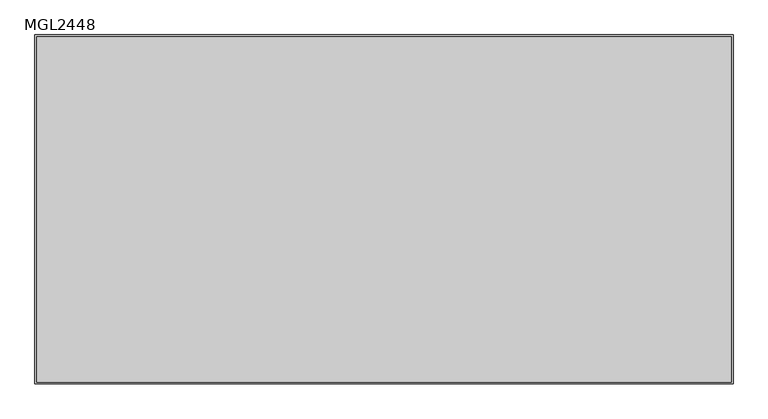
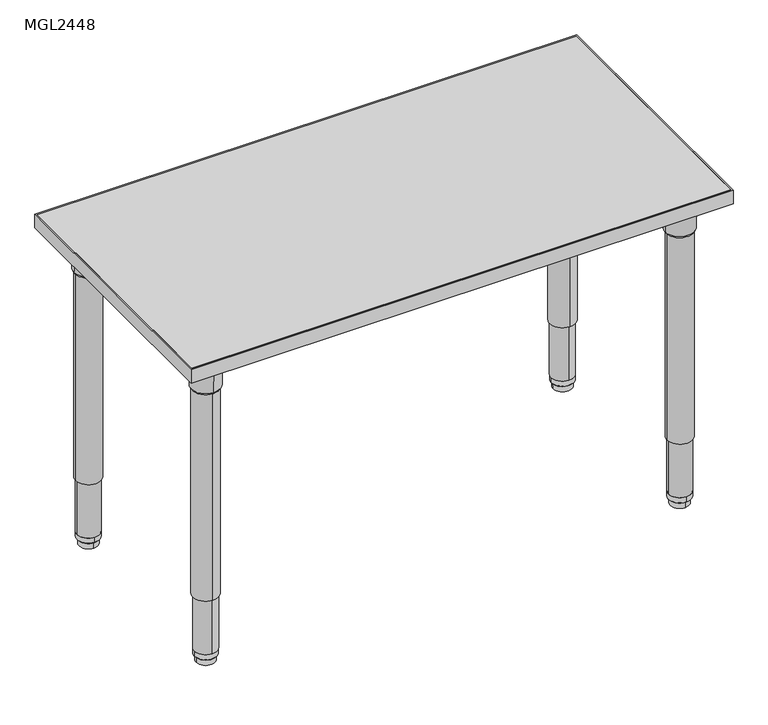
"""IFC4 building model written with IfcOpenShell, lengths in millimetres: furniture geometry, ERG-Mingle-Table-Rectangle : MGL2448."""

from ifc_helpers import new_model, si_unit, point, frame, frame_2d, origin, place, context, project, spatial, polyline, circle_curve, trimmed, segment, composite_curve, outline, extrude, source, transform, mapped, element, save
from ifc_brep_helpers import plane_surface, cylinder_surface, revolved_surface, advanced_brep


def mgl2448_73f5a753(model_context):
    return source(origin(), model_context, "Body", "SolidModel", [
        advanced_brep(
        [(503.3646842, -228.6, 650.5933069), (563.4353158, -228.6, 650.5933069), (533.4, -228.6, 650.5933069), (501.256117, -228.6, 654.3580481), (565.543883, -228.6, 654.3580481), (500.3206351, -228.6, 707.7631458), (566.4793649, -228.6, 707.7631458), (496.871083, -228.6, 714.1198315), (569.928917, -228.6, 714.1198315), (496.871083, -228.6, 726.8198315), (569.928917, -228.6, 726.8198315), (533.4, -228.6, 726.8198315)],
        [
            (0, 1, circle_curve(frame((533.4, -228.6, 650.5933069), z_axis=(0.0, 0.0, -1.0), x_axis=(1.0, 0.0, 0.0)), 30.0353158)),
            (1, 2),
            (2, 0),
            (1, 0, circle_curve(frame((533.4, -228.6, 650.5933069), z_axis=(0.0, 0.0, -1.0), x_axis=(1.0, 0.0, 0.0)), 30.0353158)),
            (3, 4, circle_curve(frame((533.4, -228.6, 654.3580481), z_axis=(0.0, 0.0, -1.0), x_axis=(1.0, 0.0, 0.0)), 32.143883)),
            (4, 1),
            (0, 3),
            (4, 3, circle_curve(frame((533.4, -228.6, 654.3580481), z_axis=(0.0, 0.0, -1.0), x_axis=(1.0, 0.0, 0.0)), 32.143883)),
            (5, 6, circle_curve(frame((533.4, -228.6, 707.7631458), z_axis=(0.0, 0.0, -1.0), x_axis=(1.0, 0.0, 0.0)), 33.0793649)),
            (6, 4),
            (3, 5),
            (6, 5, circle_curve(frame((533.4, -228.6, 707.7631458), z_axis=(0.0, 0.0, -1.0), x_axis=(1.0, 0.0, 0.0)), 33.0793649)),
            (7, 8, circle_curve(frame((533.4, -228.6, 714.1198315), z_axis=(0.0, 0.0, -1.0), x_axis=(1.0, 0.0, 0.0)), 36.528917)),
            (8, 6),
            (5, 7),
            (8, 7, circle_curve(frame((533.4, -228.6, 714.1198315), z_axis=(0.0, 0.0, -1.0), x_axis=(1.0, 0.0, 0.0)), 36.528917)),
            (9, 10, circle_curve(frame((533.4, -228.6, 726.8198315), z_axis=(0.0, 0.0, -1.0), x_axis=(1.0, 0.0, 0.0)), 36.528917)),
            (10, 8),
            (7, 9),
            (10, 9, circle_curve(frame((533.4, -228.6, 726.8198315), z_axis=(0.0, 0.0, -1.0), x_axis=(1.0, 0.0, 0.0)), 36.528917)),
            (11, 10),
            (9, 11),
        ],
        [
            plane_surface(frame((533.4, -228.6, 650.5933069), z_axis=(0.0, 0.0, -1.0), x_axis=(1.0, 0.0, 0.0))),
            revolved_surface(polyline([(563.4353158, -228.6, 650.5933069), (565.543883, -228.6, 654.3580481)]), (533.4, -228.6, 726.8198315), (0.0, 0.0, 1.0)),
            revolved_surface(polyline([(565.543883, -228.6, 654.3580481), (566.4793649, -228.6, 707.7631458)]), (533.4, -228.6, 726.8198315), (0.0, 0.0, 1.0)),
            revolved_surface(polyline([(566.4793649, -228.6, 707.7631458), (569.928917, -228.6, 714.1198315)]), (533.4, -228.6, 726.8198315), (0.0, 0.0, 1.0)),
            cylinder_surface(frame((533.4, -228.6, 726.8198315), z_axis=(0.0, 0.0, 1.0), x_axis=(1.0, 0.0, 0.0)), 36.528917),
            plane_surface(frame((533.4, -228.6, 726.8198315), z_axis=(0.0, 0.0, 1.0), x_axis=(1.0, 0.0, 0.0))),
        ],
        [
            (0, [[1, 2, 3]]),
            (0, [[4, -3, -2]]),
            (1, [[5, 6, -1, 7]]),
            (1, [[8, -7, -4, -6]]),
            (2, [[9, 10, -5, 11]]),
            (2, [[12, -11, -8, -10]]),
            (3, [[13, 14, -9, 15]]),
            (3, [[16, -15, -12, -14]]),
            (4, [[17, 18, -13, 19]]),
            (4, [[20, -19, -16, -18]]),
            (5, [[21, -17, 22]]),
            (5, [[-22, -20, -21]]),
        ],
    ),
        extrude(outline(composite_curve([segment(polyline([(579.273768, -146.0223426), (579.273768, -259.7483754)]), True, "CONTINUOUS"), segment(trimmed(circle_curve(frame_2d((563.398768, -259.7483754)), 15.875), [point((579.273768, -259.7483754))], [point((563.398768, -275.6233754))], False, "CARTESIAN"), True, "CONTINUOUS"), segment(polyline([(563.398768, -275.6233754), (449.6864205, -275.6233754)]), True, "CONTINUOUS"), segment(trimmed(circle_curve(frame_2d((449.6864205, -262.9233754)), 12.7), [point((449.6864205, -275.6233754))], [point((437.0491923, -261.6622394))], False, "CARTESIAN"), True, "CONTINUOUS"), segment(trimmed(circle_curve(frame_2d((579.5486077, -275.8830117)), 143.2072406), [point((437.0491923, -261.6622394))], [point((565.3111525, -133.3852622))], False, "CARTESIAN"), True, "CONTINUOUS"), segment(trimmed(circle_curve(frame_2d((566.573768, -146.0223426)), 12.7), [point((565.3111525, -133.3852622))], [point((579.273768, -146.0223426))], False, "CARTESIAN"), True, "CONTINUOUS")], self_intersect=False)), frame((0.0, 0.0, 726.8198315), z_axis=(0.0, 0.0, 1.0), x_axis=(1.0, 0.0, 0.0)), (0.0, 0.0, 1.0), 3.4301685),
        extrude(outline(composite_curve([segment(trimmed(circle_curve(frame_2d((533.4, -228.6)), 28.575), [point((561.975, -228.6))], [point((504.825, -228.6))], False, "CARTESIAN"), True, "CONTINUOUS"), segment(trimmed(circle_curve(frame_2d((533.4, -228.6)), 28.575), [point((504.825, -228.6))], [point((561.975, -228.6))], False, "CARTESIAN"), True, "CONTINUOUS")], self_intersect=False)), frame((0.0, 0.0, 158.3876979), z_axis=(0.0, 0.0, 1.0), x_axis=(1.0, 0.0, 0.0)), (0.0, 0.0, 1.0), 495.4089866),
        extrude(outline(composite_curve([segment(trimmed(circle_curve(frame_2d((533.4, -228.6)), 25.4), [point((558.8, -228.6))], [point((508.0, -228.6))], False, "CARTESIAN"), True, "CONTINUOUS"), segment(trimmed(circle_curve(frame_2d((533.4, -228.6)), 25.4), [point((508.0, -228.6))], [point((558.8, -228.6))], False, "CARTESIAN"), True, "CONTINUOUS")], self_intersect=False)), frame((0.0, 0.0, 28.9580435), z_axis=(0.0, 0.0, 1.0), x_axis=(1.0, 0.0, 0.0)), (0.0, 0.0, 1.0), 176.7049119),
        advanced_brep(
        [(533.4, -203.3649896, 28.9580185), (533.4, -253.8350104, 28.9580185), (533.4, -228.6, 28.9580185), (533.4, -203.500761, 16.3032949), (533.4, -253.699239, 16.3032949), (533.4, -205.0160619, 14.7291007), (533.4, -252.1839381, 14.7291007), (533.4, -207.4591422, 14.7291007), (533.4, -249.7408578, 14.7291007), (533.4, -207.6521336, 0.0), (533.4, -249.5478664, 0.0), (533.4, -228.6, 0.0)],
        [
            (0, 1, circle_curve(frame((533.4, -228.6, 28.9580185), z_axis=(0.0, 0.0, 1.0), x_axis=(0.0, -1.0, 0.0)), 25.2350104)),
            (1, 2),
            (2, 0),
            (1, 0, circle_curve(frame((533.4, -228.6, 28.9580185), z_axis=(0.0, 0.0, 1.0), x_axis=(0.0, -1.0, 0.0)), 25.2350104)),
            (3, 4, circle_curve(frame((533.4, -228.6, 16.3032949), z_axis=(0.0, 0.0, 1.0), x_axis=(0.0, -1.0, 0.0)), 25.099239)),
            (4, 1),
            (0, 3),
            (4, 3, circle_curve(frame((533.4, -228.6, 16.3032949), z_axis=(0.0, 0.0, 1.0), x_axis=(0.0, -1.0, 0.0)), 25.099239)),
            (5, 6, circle_curve(frame((533.4, -228.6, 14.7291007), z_axis=(0.0, 0.0, 1.0), x_axis=(0.0, -1.0, 0.0)), 23.5839381)),
            (6, 4),
            (3, 5),
            (6, 5, circle_curve(frame((533.4, -228.6, 14.7291007), z_axis=(0.0, 0.0, 1.0), x_axis=(0.0, -1.0, 0.0)), 23.5839381)),
            (7, 8, circle_curve(frame((533.4, -228.6, 14.7291007), z_axis=(0.0, 0.0, 1.0), x_axis=(0.0, -1.0, 0.0)), 21.1408578)),
            (8, 6),
            (5, 7),
            (8, 7, circle_curve(frame((533.4, -228.6, 14.7291007), z_axis=(0.0, 0.0, 1.0), x_axis=(0.0, -1.0, 0.0)), 21.1408578)),
            (9, 10, circle_curve(frame((533.4, -228.6, 0.0), z_axis=(0.0, 0.0, 1.0), x_axis=(0.0, -1.0, 0.0)), 20.9478664)),
            (10, 8),
            (7, 9),
            (10, 9, circle_curve(frame((533.4, -228.6, 0.0), z_axis=(0.0, 0.0, 1.0), x_axis=(0.0, -1.0, 0.0)), 20.9478664)),
            (11, 10),
            (9, 11),
        ],
        [
            plane_surface(frame((533.4, -228.6, 28.9580185), z_axis=(0.0, 0.0, 1.0), x_axis=(0.0, -1.0, 0.0))),
            revolved_surface(polyline([(533.4, -253.8350104, 28.9580185), (533.4, -253.699239, 16.3032949)]), (533.4, -228.6, 0.0), (0.0, 0.0, -1.0)),
            revolved_surface(polyline([(533.4, -253.699239, 16.3032949), (533.4, -252.1839381, 14.7291007)]), (533.4, -228.6, 0.0), (0.0, 0.0, -1.0)),
            plane_surface(frame((533.4, -228.6, 14.7291007), z_axis=(0.0, 0.0, -1.0), x_axis=(0.0, -1.0, 0.0))),
            revolved_surface(polyline([(533.4, -249.7408578, 14.7291007), (533.4, -249.5478664, 0.0)]), (533.4, -228.6, 0.0), (0.0, 0.0, -1.0)),
            plane_surface(frame((533.4, -228.6, 0.0), z_axis=(0.0, 0.0, -1.0), x_axis=(0.0, -1.0, 0.0))),
        ],
        [
            (0, [[1, 2, 3]]),
            (0, [[4, -3, -2]]),
            (1, [[5, 6, -1, 7]]),
            (1, [[8, -7, -4, -6]]),
            (2, [[9, 10, -5, 11]]),
            (2, [[12, -11, -8, -10]]),
            (3, [[13, 14, -9, 15]]),
            (3, [[16, -15, -12, -14]]),
            (4, [[17, 18, -13, 19]]),
            (4, [[20, -19, -16, -18]]),
            (5, [[21, -17, 22]]),
            (5, [[-22, -20, -21]]),
        ],
    ),
        advanced_brep(
        [(-533.4, -198.5646842, 650.5933069), (-533.4, -258.6353158, 650.5933069), (-533.4, -228.6, 650.5933069), (-533.4, -196.456117, 654.3580481), (-533.4, -260.743883, 654.3580481), (-533.4, -195.5206351, 707.7631458), (-533.4, -261.6793649, 707.7631458), (-533.4, -192.071083, 714.1198315), (-533.4, -265.128917, 714.1198315), (-533.4, -192.071083, 726.8198315), (-533.4, -265.128917, 726.8198315), (-533.4, -228.6, 726.8198315)],
        [
            (0, 1, circle_curve(frame((-533.4, -228.6, 650.5933069), z_axis=(0.0, 0.0, -1.0), x_axis=(0.0, -1.0, 0.0)), 30.0353158)),
            (1, 2),
            (2, 0),
            (1, 0, circle_curve(frame((-533.4, -228.6, 650.5933069), z_axis=(0.0, 0.0, -1.0), x_axis=(0.0, -1.0, 0.0)), 30.0353158)),
            (3, 4, circle_curve(frame((-533.4, -228.6, 654.3580481), z_axis=(0.0, 0.0, -1.0), x_axis=(0.0, -1.0, 0.0)), 32.143883)),
            (4, 1),
            (0, 3),
            (4, 3, circle_curve(frame((-533.4, -228.6, 654.3580481), z_axis=(0.0, 0.0, -1.0), x_axis=(0.0, -1.0, 0.0)), 32.143883)),
            (5, 6, circle_curve(frame((-533.4, -228.6, 707.7631458), z_axis=(0.0, 0.0, -1.0), x_axis=(0.0, -1.0, 0.0)), 33.0793649)),
            (6, 4),
            (3, 5),
            (6, 5, circle_curve(frame((-533.4, -228.6, 707.7631458), z_axis=(0.0, 0.0, -1.0), x_axis=(0.0, -1.0, 0.0)), 33.0793649)),
            (7, 8, circle_curve(frame((-533.4, -228.6, 714.1198315), z_axis=(0.0, 0.0, -1.0), x_axis=(0.0, -1.0, 0.0)), 36.528917)),
            (8, 6),
            (5, 7),
            (8, 7, circle_curve(frame((-533.4, -228.6, 714.1198315), z_axis=(0.0, 0.0, -1.0), x_axis=(0.0, -1.0, 0.0)), 36.528917)),
            (9, 10, circle_curve(frame((-533.4, -228.6, 726.8198315), z_axis=(0.0, 0.0, -1.0), x_axis=(0.0, -1.0, 0.0)), 36.528917)),
            (10, 8),
            (7, 9),
            (10, 9, circle_curve(frame((-533.4, -228.6, 726.8198315), z_axis=(0.0, 0.0, -1.0), x_axis=(0.0, -1.0, 0.0)), 36.528917)),
            (11, 10),
            (9, 11),
        ],
        [
            plane_surface(frame((-533.4, -228.6, 650.5933069), z_axis=(0.0, 0.0, -1.0), x_axis=(0.0, -1.0, 0.0))),
            revolved_surface(polyline([(-533.4, -258.6353158, 650.5933069), (-533.4, -260.743883, 654.3580481)]), (-533.4, -228.6, 726.8198315), (0.0, 0.0, 1.0)),
            revolved_surface(polyline([(-533.4, -260.743883, 654.3580481), (-533.4, -261.6793649, 707.7631458)]), (-533.4, -228.6, 726.8198315), (0.0, 0.0, 1.0)),
            revolved_surface(polyline([(-533.4, -261.6793649, 707.7631458), (-533.4, -265.128917, 714.1198315)]), (-533.4, -228.6, 726.8198315), (0.0, 0.0, 1.0)),
            cylinder_surface(frame((-533.4, -228.6, 726.8198315), z_axis=(0.0, 0.0, 1.0), x_axis=(0.0, -1.0, 0.0)), 36.528917),
            plane_surface(frame((-533.4, -228.6, 726.8198315), z_axis=(0.0, 0.0, 1.0), x_axis=(0.0, -1.0, 0.0))),
        ],
        [
            (0, [[1, 2, 3]]),
            (0, [[4, -3, -2]]),
            (1, [[5, 6, -1, 7]]),
            (1, [[8, -7, -4, -6]]),
            (2, [[9, 10, -5, 11]]),
            (2, [[12, -11, -8, -10]]),
            (3, [[13, 14, -9, 15]]),
            (3, [[16, -15, -12, -14]]),
            (4, [[17, 18, -13, 19]]),
            (4, [[20, -19, -16, -18]]),
            (5, [[21, -17, 22]]),
            (5, [[-22, -20, -21]]),
        ],
    ),
        extrude(outline(composite_curve([segment(polyline([(-450.8223426, -274.473768), (-564.5483754, -274.473768)]), True, "CONTINUOUS"), segment(trimmed(circle_curve(frame_2d((-564.5483754, -258.598768)), 15.875), [point((-564.5483754, -274.473768))], [point((-580.4233754, -258.598768))], False, "CARTESIAN"), True, "CONTINUOUS"), segment(polyline([(-580.4233754, -258.598768), (-580.4233754, -144.8864205)]), True, "CONTINUOUS"), segment(trimmed(circle_curve(frame_2d((-567.7233754, -144.8864205)), 12.7), [point((-580.4233754, -144.8864205))], [point((-566.4622394, -132.2491923))], False, "CARTESIAN"), True, "CONTINUOUS"), segment(trimmed(circle_curve(frame_2d((-580.6830117, -274.7486077)), 143.2072406), [point((-566.4622394, -132.2491923))], [point((-438.1852622, -260.5111525))], False, "CARTESIAN"), True, "CONTINUOUS"), segment(trimmed(circle_curve(frame_2d((-450.8223426, -261.773768)), 12.7), [point((-438.1852622, -260.5111525))], [point((-450.8223426, -274.473768))], False, "CARTESIAN"), True, "CONTINUOUS")], self_intersect=False)), frame((0.0, 0.0, 726.8198315), z_axis=(0.0, 0.0, 1.0), x_axis=(1.0, 0.0, 0.0)), (0.0, 0.0, 1.0), 3.4301685),
        extrude(outline(composite_curve([segment(trimmed(circle_curve(frame_2d((-533.4, -228.6)), 28.575), [point((-533.4, -257.175))], [point((-533.4, -200.025))], False, "CARTESIAN"), True, "CONTINUOUS"), segment(trimmed(circle_curve(frame_2d((-533.4, -228.6)), 28.575), [point((-533.4, -200.025))], [point((-533.4, -257.175))], False, "CARTESIAN"), True, "CONTINUOUS")], self_intersect=False)), frame((0.0, 0.0, 158.3876979), z_axis=(0.0, 0.0, 1.0), x_axis=(1.0, 0.0, 0.0)), (0.0, 0.0, 1.0), 495.4089866),
        extrude(outline(composite_curve([segment(trimmed(circle_curve(frame_2d((-533.4, -228.6)), 25.4), [point((-533.4, -254.0))], [point((-533.4, -203.2))], False, "CARTESIAN"), True, "CONTINUOUS"), segment(trimmed(circle_curve(frame_2d((-533.4, -228.6)), 25.4), [point((-533.4, -203.2))], [point((-533.4, -254.0))], False, "CARTESIAN"), True, "CONTINUOUS")], self_intersect=False)), frame((0.0, 0.0, 28.9580435), z_axis=(0.0, 0.0, 1.0), x_axis=(1.0, 0.0, 0.0)), (0.0, 0.0, 1.0), 176.7049119),
        advanced_brep(
        [(-508.1649896, -228.6, 28.9580185), (-558.6350104, -228.6, 28.9580185), (-533.4, -228.6, 28.9580185), (-508.300761, -228.6, 16.3032949), (-558.499239, -228.6, 16.3032949), (-509.8160619, -228.6, 14.7291007), (-556.9839381, -228.6, 14.7291007), (-512.2591422, -228.6, 14.7291007), (-554.5408578, -228.6, 14.7291007), (-512.4521336, -228.6, 0.0), (-554.3478664, -228.6, 0.0), (-533.4, -228.6, 0.0)],
        [
            (0, 1, circle_curve(frame((-533.4, -228.6, 28.9580185), z_axis=(0.0, 0.0, 1.0), x_axis=(-1.0, 0.0, 0.0)), 25.2350104)),
            (1, 2),
            (2, 0),
            (1, 0, circle_curve(frame((-533.4, -228.6, 28.9580185), z_axis=(0.0, 0.0, 1.0), x_axis=(-1.0, 0.0, 0.0)), 25.2350104)),
            (3, 4, circle_curve(frame((-533.4, -228.6, 16.3032949), z_axis=(0.0, 0.0, 1.0), x_axis=(-1.0, 0.0, 0.0)), 25.099239)),
            (4, 1),
            (0, 3),
            (4, 3, circle_curve(frame((-533.4, -228.6, 16.3032949), z_axis=(0.0, 0.0, 1.0), x_axis=(-1.0, 0.0, 0.0)), 25.099239)),
            (5, 6, circle_curve(frame((-533.4, -228.6, 14.7291007), z_axis=(0.0, 0.0, 1.0), x_axis=(-1.0, 0.0, 0.0)), 23.5839381)),
            (6, 4),
            (3, 5),
            (6, 5, circle_curve(frame((-533.4, -228.6, 14.7291007), z_axis=(0.0, 0.0, 1.0), x_axis=(-1.0, 0.0, 0.0)), 23.5839381)),
            (7, 8, circle_curve(frame((-533.4, -228.6, 14.7291007), z_axis=(0.0, 0.0, 1.0), x_axis=(-1.0, 0.0, 0.0)), 21.1408578)),
            (8, 6),
            (5, 7),
            (8, 7, circle_curve(frame((-533.4, -228.6, 14.7291007), z_axis=(0.0, 0.0, 1.0), x_axis=(-1.0, 0.0, 0.0)), 21.1408578)),
            (9, 10, circle_curve(frame((-533.4, -228.6, 0.0), z_axis=(0.0, 0.0, 1.0), x_axis=(-1.0, 0.0, 0.0)), 20.9478664)),
            (10, 8),
            (7, 9),
            (10, 9, circle_curve(frame((-533.4, -228.6, 0.0), z_axis=(0.0, 0.0, 1.0), x_axis=(-1.0, 0.0, 0.0)), 20.9478664)),
            (11, 10),
            (9, 11),
        ],
        [
            plane_surface(frame((-533.4, -228.6, 28.9580185), z_axis=(0.0, 0.0, 1.0), x_axis=(-1.0, 0.0, 0.0))),
            revolved_surface(polyline([(-558.6350104, -228.6, 28.9580185), (-558.499239, -228.6, 16.3032949)]), (-533.4, -228.6, 0.0), (0.0, 0.0, -1.0)),
            revolved_surface(polyline([(-558.499239, -228.6, 16.3032949), (-556.9839381, -228.6, 14.7291007)]), (-533.4, -228.6, 0.0), (0.0, 0.0, -1.0)),
            plane_surface(frame((-533.4, -228.6, 14.7291007), z_axis=(0.0, 0.0, -1.0), x_axis=(-1.0, 0.0, 0.0))),
            revolved_surface(polyline([(-554.5408578, -228.6, 14.7291007), (-554.3478664, -228.6, 0.0)]), (-533.4, -228.6, 0.0), (0.0, 0.0, -1.0)),
            plane_surface(frame((-533.4, -228.6, 0.0), z_axis=(0.0, 0.0, -1.0), x_axis=(-1.0, 0.0, 0.0))),
        ],
        [
            (0, [[1, 2, 3]]),
            (0, [[4, -3, -2]]),
            (1, [[5, 6, -1, 7]]),
            (1, [[8, -7, -4, -6]]),
            (2, [[9, 10, -5, 11]]),
            (2, [[12, -11, -8, -10]]),
            (3, [[13, 14, -9, 15]]),
            (3, [[16, -15, -12, -14]]),
            (4, [[17, 18, -13, 19]]),
            (4, [[20, -19, -16, -18]]),
            (5, [[21, -17, 22]]),
            (5, [[-22, -20, -21]]),
        ],
    ),
        advanced_brep(
        [(533.4, 198.5646842, 650.5933069), (533.4, 258.6353158, 650.5933069), (533.4, 228.6, 650.5933069), (533.4, 196.456117, 654.3580481), (533.4, 260.743883, 654.3580481), (533.4, 195.5206351, 707.7631458), (533.4, 261.6793649, 707.7631458), (533.4, 192.071083, 714.1198315), (533.4, 265.128917, 714.1198315), (533.4, 192.071083, 726.8198315), (533.4, 265.128917, 726.8198315), (533.4, 228.6, 726.8198315)],
        [
            (0, 1, circle_curve(frame((533.4, 228.6, 650.5933069), z_axis=(0.0, 0.0, -1.0), x_axis=(0.0, 1.0, 0.0)), 30.0353158)),
            (1, 2),
            (2, 0),
            (1, 0, circle_curve(frame((533.4, 228.6, 650.5933069), z_axis=(0.0, 0.0, -1.0), x_axis=(0.0, 1.0, 0.0)), 30.0353158)),
            (3, 4, circle_curve(frame((533.4, 228.6, 654.3580481), z_axis=(0.0, 0.0, -1.0), x_axis=(0.0, 1.0, 0.0)), 32.143883)),
            (4, 1),
            (0, 3),
            (4, 3, circle_curve(frame((533.4, 228.6, 654.3580481), z_axis=(0.0, 0.0, -1.0), x_axis=(0.0, 1.0, 0.0)), 32.143883)),
            (5, 6, circle_curve(frame((533.4, 228.6, 707.7631458), z_axis=(0.0, 0.0, -1.0), x_axis=(0.0, 1.0, 0.0)), 33.0793649)),
            (6, 4),
            (3, 5),
            (6, 5, circle_curve(frame((533.4, 228.6, 707.7631458), z_axis=(0.0, 0.0, -1.0), x_axis=(0.0, 1.0, 0.0)), 33.0793649)),
            (7, 8, circle_curve(frame((533.4, 228.6, 714.1198315), z_axis=(0.0, 0.0, -1.0), x_axis=(0.0, 1.0, 0.0)), 36.528917)),
            (8, 6),
            (5, 7),
            (8, 7, circle_curve(frame((533.4, 228.6, 714.1198315), z_axis=(0.0, 0.0, -1.0), x_axis=(0.0, 1.0, 0.0)), 36.528917)),
            (9, 10, circle_curve(frame((533.4, 228.6, 726.8198315), z_axis=(0.0, 0.0, -1.0), x_axis=(0.0, 1.0, 0.0)), 36.528917)),
            (10, 8),
            (7, 9),
            (10, 9, circle_curve(frame((533.4, 228.6, 726.8198315), z_axis=(0.0, 0.0, -1.0), x_axis=(0.0, 1.0, 0.0)), 36.528917)),
            (11, 10),
            (9, 11),
        ],
        [
            plane_surface(frame((533.4, 228.6, 650.5933069), z_axis=(0.0, 0.0, -1.0), x_axis=(0.0, 1.0, 0.0))),
            revolved_surface(polyline([(533.4, 258.6353158, 650.5933069), (533.4, 260.743883, 654.3580481)]), (533.4, 228.6, 726.8198315), (0.0, 0.0, 1.0)),
            revolved_surface(polyline([(533.4, 260.743883, 654.3580481), (533.4, 261.6793649, 707.7631458)]), (533.4, 228.6, 726.8198315), (0.0, 0.0, 1.0)),
            revolved_surface(polyline([(533.4, 261.6793649, 707.7631458), (533.4, 265.128917, 714.1198315)]), (533.4, 228.6, 726.8198315), (0.0, 0.0, 1.0)),
            cylinder_surface(frame((533.4, 228.6, 726.8198315), z_axis=(0.0, 0.0, 1.0), x_axis=(0.0, 1.0, 0.0)), 36.528917),
            plane_surface(frame((533.4, 228.6, 726.8198315), z_axis=(0.0, 0.0, 1.0), x_axis=(0.0, 1.0, 0.0))),
        ],
        [
            (0, [[1, 2, 3]]),
            (0, [[4, -3, -2]]),
            (1, [[5, 6, -1, 7]]),
            (1, [[8, -7, -4, -6]]),
            (2, [[9, 10, -5, 11]]),
            (2, [[12, -11, -8, -10]]),
            (3, [[13, 14, -9, 15]]),
            (3, [[16, -15, -12, -14]]),
            (4, [[17, 18, -13, 19]]),
            (4, [[20, -19, -16, -18]]),
            (5, [[21, -17, 22]]),
            (5, [[-22, -20, -21]]),
        ],
    ),
        extrude(outline(composite_curve([segment(polyline([(450.8223426, 274.473768), (564.5483754, 274.473768)]), True, "CONTINUOUS"), segment(trimmed(circle_curve(frame_2d((564.5483754, 258.598768)), 15.875), [point((564.5483754, 274.473768))], [point((580.4233754, 258.598768))], False, "CARTESIAN"), True, "CONTINUOUS"), segment(polyline([(580.4233754, 258.598768), (580.4233754, 144.8864205)]), True, "CONTINUOUS"), segment(trimmed(circle_curve(frame_2d((567.7233754, 144.8864205)), 12.7), [point((580.4233754, 144.8864205))], [point((566.4622394, 132.2491923))], False, "CARTESIAN"), True, "CONTINUOUS"), segment(trimmed(circle_curve(frame_2d((580.6830117, 274.7486077)), 143.2072406), [point((566.4622394, 132.2491923))], [point((438.1852622, 260.5111525))], False, "CARTESIAN"), True, "CONTINUOUS"), segment(trimmed(circle_curve(frame_2d((450.8223426, 261.773768)), 12.7), [point((438.1852622, 260.5111525))], [point((450.8223426, 274.473768))], False, "CARTESIAN"), True, "CONTINUOUS")], self_intersect=False)), frame((0.0, 0.0, 726.8198315), z_axis=(0.0, 0.0, 1.0), x_axis=(1.0, 0.0, 0.0)), (0.0, 0.0, 1.0), 3.4301685),
        extrude(outline(composite_curve([segment(trimmed(circle_curve(frame_2d((533.4, 228.6)), 28.575), [point((533.4, 257.175))], [point((533.4, 200.025))], False, "CARTESIAN"), True, "CONTINUOUS"), segment(trimmed(circle_curve(frame_2d((533.4, 228.6)), 28.575), [point((533.4, 200.025))], [point((533.4, 257.175))], False, "CARTESIAN"), True, "CONTINUOUS")], self_intersect=False)), frame((0.0, 0.0, 158.3876979), z_axis=(0.0, 0.0, 1.0), x_axis=(1.0, 0.0, 0.0)), (0.0, 0.0, 1.0), 495.4089866),
        extrude(outline(composite_curve([segment(trimmed(circle_curve(frame_2d((533.4, 228.6)), 25.4), [point((533.4, 254.0))], [point((533.4, 203.2))], False, "CARTESIAN"), True, "CONTINUOUS"), segment(trimmed(circle_curve(frame_2d((533.4, 228.6)), 25.4), [point((533.4, 203.2))], [point((533.4, 254.0))], False, "CARTESIAN"), True, "CONTINUOUS")], self_intersect=False)), frame((0.0, 0.0, 28.9580435), z_axis=(0.0, 0.0, 1.0), x_axis=(1.0, 0.0, 0.0)), (0.0, 0.0, 1.0), 176.7049119),
        advanced_brep(
        [(508.1649896, 228.6, 28.9580185), (558.6350104, 228.6, 28.9580185), (533.4, 228.6, 28.9580185), (508.300761, 228.6, 16.3032949), (558.499239, 228.6, 16.3032949), (509.8160619, 228.6, 14.7291007), (556.9839381, 228.6, 14.7291007), (512.2591422, 228.6, 14.7291007), (554.5408578, 228.6, 14.7291007), (512.4521336, 228.6, 0.0), (554.3478664, 228.6, 0.0), (533.4, 228.6, 0.0)],
        [
            (0, 1, circle_curve(frame((533.4, 228.6, 28.9580185), z_axis=(0.0, 0.0, 1.0), x_axis=(1.0, 0.0, 0.0)), 25.2350104)),
            (1, 2),
            (2, 0),
            (1, 0, circle_curve(frame((533.4, 228.6, 28.9580185), z_axis=(0.0, 0.0, 1.0), x_axis=(1.0, 0.0, 0.0)), 25.2350104)),
            (3, 4, circle_curve(frame((533.4, 228.6, 16.3032949), z_axis=(0.0, 0.0, 1.0), x_axis=(1.0, 0.0, 0.0)), 25.099239)),
            (4, 1),
            (0, 3),
            (4, 3, circle_curve(frame((533.4, 228.6, 16.3032949), z_axis=(0.0, 0.0, 1.0), x_axis=(1.0, 0.0, 0.0)), 25.099239)),
            (5, 6, circle_curve(frame((533.4, 228.6, 14.7291007), z_axis=(0.0, 0.0, 1.0), x_axis=(1.0, 0.0, 0.0)), 23.5839381)),
            (6, 4),
            (3, 5),
            (6, 5, circle_curve(frame((533.4, 228.6, 14.7291007), z_axis=(0.0, 0.0, 1.0), x_axis=(1.0, 0.0, 0.0)), 23.5839381)),
            (7, 8, circle_curve(frame((533.4, 228.6, 14.7291007), z_axis=(0.0, 0.0, 1.0), x_axis=(1.0, 0.0, 0.0)), 21.1408578)),
            (8, 6),
            (5, 7),
            (8, 7, circle_curve(frame((533.4, 228.6, 14.7291007), z_axis=(0.0, 0.0, 1.0), x_axis=(1.0, 0.0, 0.0)), 21.1408578)),
            (9, 10, circle_curve(frame((533.4, 228.6, 0.0), z_axis=(0.0, 0.0, 1.0), x_axis=(1.0, 0.0, 0.0)), 20.9478664)),
            (10, 8),
            (7, 9),
            (10, 9, circle_curve(frame((533.4, 228.6, 0.0), z_axis=(0.0, 0.0, 1.0), x_axis=(1.0, 0.0, 0.0)), 20.9478664)),
            (11, 10),
            (9, 11),
        ],
        [
            plane_surface(frame((533.4, 228.6, 28.9580185), z_axis=(0.0, 0.0, 1.0), x_axis=(1.0, 0.0, 0.0))),
            revolved_surface(polyline([(558.6350104, 228.6, 28.9580185), (558.499239, 228.6, 16.3032949)]), (533.4, 228.6, 0.0), (0.0, 0.0, -1.0)),
            revolved_surface(polyline([(558.499239, 228.6, 16.3032949), (556.9839381, 228.6, 14.7291007)]), (533.4, 228.6, 0.0), (0.0, 0.0, -1.0)),
            plane_surface(frame((533.4, 228.6, 14.7291007), z_axis=(0.0, 0.0, -1.0), x_axis=(1.0, 0.0, 0.0))),
            revolved_surface(polyline([(554.5408578, 228.6, 14.7291007), (554.3478664, 228.6, 0.0)]), (533.4, 228.6, 0.0), (0.0, 0.0, -1.0)),
            plane_surface(frame((533.4, 228.6, 0.0), z_axis=(0.0, 0.0, -1.0), x_axis=(1.0, 0.0, 0.0))),
        ],
        [
            (0, [[1, 2, 3]]),
            (0, [[4, -3, -2]]),
            (1, [[5, 6, -1, 7]]),
            (1, [[8, -7, -4, -6]]),
            (2, [[9, 10, -5, 11]]),
            (2, [[12, -11, -8, -10]]),
            (3, [[13, 14, -9, 15]]),
            (3, [[16, -15, -12, -14]]),
            (4, [[17, 18, -13, 19]]),
            (4, [[20, -19, -16, -18]]),
            (5, [[21, -17, 22]]),
            (5, [[-22, -20, -21]]),
        ],
    ),
        advanced_brep(
        [(-503.3646842, 228.6, 650.5933069), (-563.4353158, 228.6, 650.5933069), (-533.4, 228.6, 650.5933069), (-501.256117, 228.6, 654.3580481), (-565.543883, 228.6, 654.3580481), (-500.3206351, 228.6, 707.7631458), (-566.4793649, 228.6, 707.7631458), (-496.871083, 228.6, 714.1198315), (-569.928917, 228.6, 714.1198315), (-496.871083, 228.6, 726.8198315), (-569.928917, 228.6, 726.8198315), (-533.4, 228.6, 726.8198315)],
        [
            (0, 1, circle_curve(frame((-533.4, 228.6, 650.5933069), z_axis=(0.0, 0.0, -1.0), x_axis=(-1.0, 0.0, 0.0)), 30.0353158)),
            (1, 2),
            (2, 0),
            (1, 0, circle_curve(frame((-533.4, 228.6, 650.5933069), z_axis=(0.0, 0.0, -1.0), x_axis=(-1.0, 0.0, 0.0)), 30.0353158)),
            (3, 4, circle_curve(frame((-533.4, 228.6, 654.3580481), z_axis=(0.0, 0.0, -1.0), x_axis=(-1.0, 0.0, 0.0)), 32.143883)),
            (4, 1),
            (0, 3),
            (4, 3, circle_curve(frame((-533.4, 228.6, 654.3580481), z_axis=(0.0, 0.0, -1.0), x_axis=(-1.0, 0.0, 0.0)), 32.143883)),
            (5, 6, circle_curve(frame((-533.4, 228.6, 707.7631458), z_axis=(0.0, 0.0, -1.0), x_axis=(-1.0, 0.0, 0.0)), 33.0793649)),
            (6, 4),
            (3, 5),
            (6, 5, circle_curve(frame((-533.4, 228.6, 707.7631458), z_axis=(0.0, 0.0, -1.0), x_axis=(-1.0, 0.0, 0.0)), 33.0793649)),
            (7, 8, circle_curve(frame((-533.4, 228.6, 714.1198315), z_axis=(0.0, 0.0, -1.0), x_axis=(-1.0, 0.0, 0.0)), 36.528917)),
            (8, 6),
            (5, 7),
            (8, 7, circle_curve(frame((-533.4, 228.6, 714.1198315), z_axis=(0.0, 0.0, -1.0), x_axis=(-1.0, 0.0, 0.0)), 36.528917)),
            (9, 10, circle_curve(frame((-533.4, 228.6, 726.8198315), z_axis=(0.0, 0.0, -1.0), x_axis=(-1.0, 0.0, 0.0)), 36.528917)),
            (10, 8),
            (7, 9),
            (10, 9, circle_curve(frame((-533.4, 228.6, 726.8198315), z_axis=(0.0, 0.0, -1.0), x_axis=(-1.0, 0.0, 0.0)), 36.528917)),
            (11, 10),
            (9, 11),
        ],
        [
            plane_surface(frame((-533.4, 228.6, 650.5933069), z_axis=(0.0, 0.0, -1.0), x_axis=(-1.0, 0.0, 0.0))),
            revolved_surface(polyline([(-563.4353158, 228.6, 650.5933069), (-565.543883, 228.6, 654.3580481)]), (-533.4, 228.6, 726.8198315), (0.0, 0.0, 1.0)),
            revolved_surface(polyline([(-565.543883, 228.6, 654.3580481), (-566.4793649, 228.6, 707.7631458)]), (-533.4, 228.6, 726.8198315), (0.0, 0.0, 1.0)),
            revolved_surface(polyline([(-566.4793649, 228.6, 707.7631458), (-569.928917, 228.6, 714.1198315)]), (-533.4, 228.6, 726.8198315), (0.0, 0.0, 1.0)),
            cylinder_surface(frame((-533.4, 228.6, 726.8198315), z_axis=(0.0, 0.0, 1.0), x_axis=(-1.0, 0.0, 0.0)), 36.528917),
            plane_surface(frame((-533.4, 228.6, 726.8198315), z_axis=(0.0, 0.0, 1.0), x_axis=(-1.0, 0.0, 0.0))),
        ],
        [
            (0, [[1, 2, 3]]),
            (0, [[4, -3, -2]]),
            (1, [[5, 6, -1, 7]]),
            (1, [[8, -7, -4, -6]]),
            (2, [[9, 10, -5, 11]]),
            (2, [[12, -11, -8, -10]]),
            (3, [[13, 14, -9, 15]]),
            (3, [[16, -15, -12, -14]]),
            (4, [[17, 18, -13, 19]]),
            (4, [[20, -19, -16, -18]]),
            (5, [[21, -17, 22]]),
            (5, [[-22, -20, -21]]),
        ],
    ),
        extrude(outline(composite_curve([segment(polyline([(-579.273768, 146.0223426), (-579.273768, 259.7483754)]), True, "CONTINUOUS"), segment(trimmed(circle_curve(frame_2d((-563.398768, 259.7483754)), 15.875), [point((-579.273768, 259.7483754))], [point((-563.398768, 275.6233754))], False, "CARTESIAN"), True, "CONTINUOUS"), segment(polyline([(-563.398768, 275.6233754), (-449.6864205, 275.6233754)]), True, "CONTINUOUS"), segment(trimmed(circle_curve(frame_2d((-449.6864205, 262.9233754)), 12.7), [point((-449.6864205, 275.6233754))], [point((-437.0491923, 261.6622394))], False, "CARTESIAN"), True, "CONTINUOUS"), segment(trimmed(circle_curve(frame_2d((-579.5486077, 275.8830117)), 143.2072406), [point((-437.0491923, 261.6622394))], [point((-565.3111525, 133.3852622))], False, "CARTESIAN"), True, "CONTINUOUS"), segment(trimmed(circle_curve(frame_2d((-566.573768, 146.0223426)), 12.7), [point((-565.3111525, 133.3852622))], [point((-579.273768, 146.0223426))], False, "CARTESIAN"), True, "CONTINUOUS")], self_intersect=False)), frame((0.0, 0.0, 726.8198315), z_axis=(0.0, 0.0, 1.0), x_axis=(1.0, 0.0, 0.0)), (0.0, 0.0, 1.0), 3.4301685),
        extrude(outline(composite_curve([segment(trimmed(circle_curve(frame_2d((-533.4, 228.6)), 28.575), [point((-561.975, 228.6))], [point((-504.825, 228.6))], False, "CARTESIAN"), True, "CONTINUOUS"), segment(trimmed(circle_curve(frame_2d((-533.4, 228.6)), 28.575), [point((-504.825, 228.6))], [point((-561.975, 228.6))], False, "CARTESIAN"), True, "CONTINUOUS")], self_intersect=False)), frame((0.0, 0.0, 158.3876979), z_axis=(0.0, 0.0, 1.0), x_axis=(1.0, 0.0, 0.0)), (0.0, 0.0, 1.0), 495.4089866),
        extrude(outline(composite_curve([segment(trimmed(circle_curve(frame_2d((-533.4, 228.6)), 25.4), [point((-558.8, 228.6))], [point((-508.0, 228.6))], False, "CARTESIAN"), True, "CONTINUOUS"), segment(trimmed(circle_curve(frame_2d((-533.4, 228.6)), 25.4), [point((-508.0, 228.6))], [point((-558.8, 228.6))], False, "CARTESIAN"), True, "CONTINUOUS")], self_intersect=False)), frame((0.0, 0.0, 28.9580435), z_axis=(0.0, 0.0, 1.0), x_axis=(1.0, 0.0, 0.0)), (0.0, 0.0, 1.0), 176.7049119),
        advanced_brep(
        [(-533.4, 203.3649896, 28.9580185), (-533.4, 253.8350104, 28.9580185), (-533.4, 228.6, 28.9580185), (-533.4, 203.500761, 16.3032949), (-533.4, 253.699239, 16.3032949), (-533.4, 205.0160619, 14.7291007), (-533.4, 252.1839381, 14.7291007), (-533.4, 207.4591422, 14.7291007), (-533.4, 249.7408578, 14.7291007), (-533.4, 207.6521336, 0.0), (-533.4, 249.5478664, 0.0), (-533.4, 228.6, 0.0)],
        [
            (0, 1, circle_curve(frame((-533.4, 228.6, 28.9580185), z_axis=(0.0, 0.0, 1.0), x_axis=(0.0, 1.0, 0.0)), 25.2350104)),
            (1, 2),
            (2, 0),
            (1, 0, circle_curve(frame((-533.4, 228.6, 28.9580185), z_axis=(0.0, 0.0, 1.0), x_axis=(0.0, 1.0, 0.0)), 25.2350104)),
            (3, 4, circle_curve(frame((-533.4, 228.6, 16.3032949), z_axis=(0.0, 0.0, 1.0), x_axis=(0.0, 1.0, 0.0)), 25.099239)),
            (4, 1),
            (0, 3),
            (4, 3, circle_curve(frame((-533.4, 228.6, 16.3032949), z_axis=(0.0, 0.0, 1.0), x_axis=(0.0, 1.0, 0.0)), 25.099239)),
            (5, 6, circle_curve(frame((-533.4, 228.6, 14.7291007), z_axis=(0.0, 0.0, 1.0), x_axis=(0.0, 1.0, 0.0)), 23.5839381)),
            (6, 4),
            (3, 5),
            (6, 5, circle_curve(frame((-533.4, 228.6, 14.7291007), z_axis=(0.0, 0.0, 1.0), x_axis=(0.0, 1.0, 0.0)), 23.5839381)),
            (7, 8, circle_curve(frame((-533.4, 228.6, 14.7291007), z_axis=(0.0, 0.0, 1.0), x_axis=(0.0, 1.0, 0.0)), 21.1408578)),
            (8, 6),
            (5, 7),
            (8, 7, circle_curve(frame((-533.4, 228.6, 14.7291007), z_axis=(0.0, 0.0, 1.0), x_axis=(0.0, 1.0, 0.0)), 21.1408578)),
            (9, 10, circle_curve(frame((-533.4, 228.6, 0.0), z_axis=(0.0, 0.0, 1.0), x_axis=(0.0, 1.0, 0.0)), 20.9478664)),
            (10, 8),
            (7, 9),
            (10, 9, circle_curve(frame((-533.4, 228.6, 0.0), z_axis=(0.0, 0.0, 1.0), x_axis=(0.0, 1.0, 0.0)), 20.9478664)),
            (11, 10),
            (9, 11),
        ],
        [
            plane_surface(frame((-533.4, 228.6, 28.9580185), z_axis=(0.0, 0.0, 1.0), x_axis=(0.0, 1.0, 0.0))),
            revolved_surface(polyline([(-533.4, 253.8350104, 28.9580185), (-533.4, 253.699239, 16.3032949)]), (-533.4, 228.6, 0.0), (0.0, 0.0, -1.0)),
            revolved_surface(polyline([(-533.4, 253.699239, 16.3032949), (-533.4, 252.1839381, 14.7291007)]), (-533.4, 228.6, 0.0), (0.0, 0.0, -1.0)),
            plane_surface(frame((-533.4, 228.6, 14.7291007), z_axis=(0.0, 0.0, -1.0), x_axis=(0.0, 1.0, 0.0))),
            revolved_surface(polyline([(-533.4, 249.7408578, 14.7291007), (-533.4, 249.5478664, 0.0)]), (-533.4, 228.6, 0.0), (0.0, 0.0, -1.0)),
            plane_surface(frame((-533.4, 228.6, 0.0), z_axis=(0.0, 0.0, -1.0), x_axis=(0.0, 1.0, 0.0))),
        ],
        [
            (0, [[1, 2, 3]]),
            (0, [[4, -3, -2]]),
            (1, [[5, 6, -1, 7]]),
            (1, [[8, -7, -4, -6]]),
            (2, [[9, 10, -5, 11]]),
            (2, [[12, -11, -8, -10]]),
            (3, [[13, 14, -9, 15]]),
            (3, [[16, -15, -12, -14]]),
            (4, [[17, 18, -13, 19]]),
            (4, [[20, -19, -16, -18]]),
            (5, [[21, -17, 22]]),
            (5, [[-22, -20, -21]]),
        ],
    ),
        extrude(outline(polyline([(-606.425, 301.625), (606.425, 301.625), (606.425, -301.625), (-606.425, -301.625), (-606.425, 301.625)])), frame((0.0, 0.0, 730.25), z_axis=(0.0, 0.0, 1.0), x_axis=(1.0, 0.0, 0.0)), (0.0, 0.0, 1.0), 31.75),
        extrude(outline(polyline([(609.6, -304.8), (-609.6, -304.8), (-609.6, 304.8), (609.6, 304.8), (609.6, -304.8)]), holes=[polyline([(606.425, 301.625), (-606.425, 301.625), (-606.425, -301.625), (606.425, -301.625), (606.425, 301.625)])]), frame((0.0, 0.0, 730.25), z_axis=(0.0, 0.0, 1.0), x_axis=(1.0, 0.0, 0.0)), (0.0, 0.0, 1.0), 31.75),
    ])


if __name__ == "__main__":
    model = new_model("IFC4")
    model_context = context("Model", 3, world=origin())
    ifc_project = project(units=[si_unit("LENGTHUNIT", "METRE", prefix="MILLI")], contexts=[model_context])
    site = spatial("IfcSite", under=ifc_project)
    building = spatial("IfcBuilding", under=site)
    placement = place(None, origin())
    mgl2448_shape = mgl2448_73f5a753(model_context)
    element("IfcFurniture", 1, ObjectType="ERG-Mingle-Table-Rectangle : MGL2448", at=placement, inside=building, context=model_context, shape_type="MappedRepresentation", body=[
        mapped(mgl2448_shape, transform((0.0, 0.0, 0.0), x_axis=(1.0, 0.0, 0.0), y_axis=(0.0, 1.0, 0.0), z_axis=(0.0, 0.0, 1.0))),
    ])
    save(model, "model.ifc")
